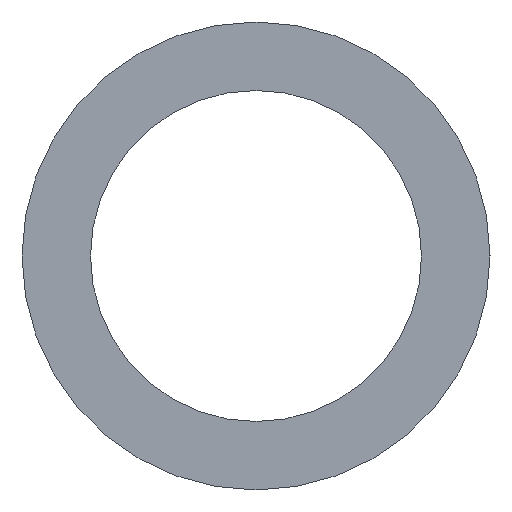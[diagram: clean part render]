
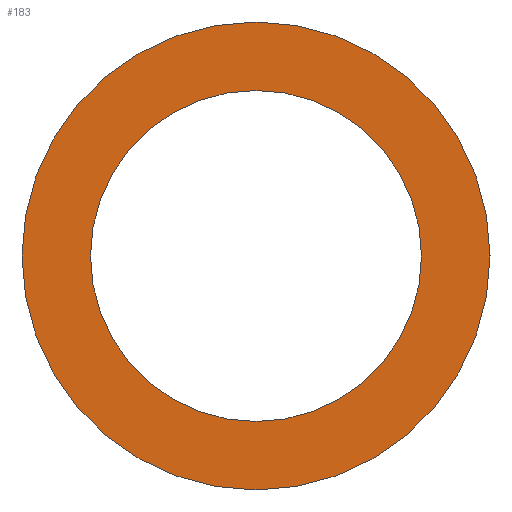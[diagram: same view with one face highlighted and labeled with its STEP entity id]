
A CAD part, left-side view. The second image highlights one B-rep face of the part: STEP entity #183.
In plain terms, the highlighted planar face has unit normal (-1, 0, 0).
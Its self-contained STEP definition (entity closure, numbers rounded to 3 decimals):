
#22 = VERTEX_POINT('',#23);
#23 = CARTESIAN_POINT('',(1.27,3.95,12.));
#32 = CYLINDRICAL_SURFACE('',#33,3.95);
#33 = AXIS2_PLACEMENT_3D('',#34,#35,#36);
#34 = CARTESIAN_POINT('',(1.27,0.,12.));
#35 = DIRECTION('',(-1.,-0.,-0.));
#36 = DIRECTION('',(0.,1.,0.));
#79 = EDGE_CURVE('',#22,#22,#80,.T.);
#80 = SURFACE_CURVE('',#81,(#86,#93),.PCURVE_S1.);
#81 = CIRCLE('',#82,3.95);
#82 = AXIS2_PLACEMENT_3D('',#83,#84,#85);
#83 = CARTESIAN_POINT('',(1.27,0.,12.));
#84 = DIRECTION('',(1.,0.,0.));
#85 = DIRECTION('',(0.,1.,0.));
#86 = PCURVE('',#32,#87);
#87 = DEFINITIONAL_REPRESENTATION('',(#88),#92);
#88 = LINE('',#89,#90);
#89 = CARTESIAN_POINT('',(-0.,0.));
#90 = VECTOR('',#91,1.);
#91 = DIRECTION('',(-1.,0.));
#92 = ( GEOMETRIC_REPRESENTATION_CONTEXT(2) 
PARAMETRIC_REPRESENTATION_CONTEXT() REPRESENTATION_CONTEXT('2D SPACE',''
  ) );
#93 = PCURVE('',#94,#99);
#94 = PLANE('',#95);
#95 = AXIS2_PLACEMENT_3D('',#96,#97,#98);
#96 = CARTESIAN_POINT('',(1.27,0.,12.));
#97 = DIRECTION('',(1.,0.,0.));
#98 = DIRECTION('',(-0.,0.,1.));
#99 = DEFINITIONAL_REPRESENTATION('',(#100),#104);
#100 = CIRCLE('',#101,3.95);
#101 = AXIS2_PLACEMENT_2D('',#102,#103);
#102 = CARTESIAN_POINT('',(0.,0.));
#103 = DIRECTION('',(0.,-1.));
#104 = ( GEOMETRIC_REPRESENTATION_CONTEXT(2) 
PARAMETRIC_REPRESENTATION_CONTEXT() REPRESENTATION_CONTEXT('2D SPACE',''
  ) );
#110 = VERTEX_POINT('',#111);
#111 = CARTESIAN_POINT('',(1.27,2.794,12.));
#120 = CYLINDRICAL_SURFACE('',#121,2.794);
#121 = AXIS2_PLACEMENT_3D('',#122,#123,#124);
#122 = CARTESIAN_POINT('',(1.27,0.,12.));
#123 = DIRECTION('',(-1.,-0.,-0.));
#124 = DIRECTION('',(0.,1.,0.));
#162 = EDGE_CURVE('',#110,#110,#163,.T.);
#163 = SURFACE_CURVE('',#164,(#169,#176),.PCURVE_S1.);
#164 = CIRCLE('',#165,2.794);
#165 = AXIS2_PLACEMENT_3D('',#166,#167,#168);
#166 = CARTESIAN_POINT('',(1.27,0.,12.));
#167 = DIRECTION('',(1.,0.,0.));
#168 = DIRECTION('',(0.,1.,0.));
#169 = PCURVE('',#120,#170);
#170 = DEFINITIONAL_REPRESENTATION('',(#171),#175);
#171 = LINE('',#172,#173);
#172 = CARTESIAN_POINT('',(-0.,0.));
#173 = VECTOR('',#174,1.);
#174 = DIRECTION('',(-1.,0.));
#175 = ( GEOMETRIC_REPRESENTATION_CONTEXT(2) 
PARAMETRIC_REPRESENTATION_CONTEXT() REPRESENTATION_CONTEXT('2D SPACE',''
  ) );
#176 = PCURVE('',#94,#177);
#177 = DEFINITIONAL_REPRESENTATION('',(#178),#182);
#178 = CIRCLE('',#179,2.794);
#179 = AXIS2_PLACEMENT_2D('',#180,#181);
#180 = CARTESIAN_POINT('',(0.,0.));
#181 = DIRECTION('',(0.,-1.));
#182 = ( GEOMETRIC_REPRESENTATION_CONTEXT(2) 
PARAMETRIC_REPRESENTATION_CONTEXT() REPRESENTATION_CONTEXT('2D SPACE',''
  ) );
#183 = ADVANCED_FACE('',(#184,#187),#94,.F.);
#184 = FACE_BOUND('',#185,.F.);
#185 = EDGE_LOOP('',(#186));
#186 = ORIENTED_EDGE('',*,*,#79,.T.);
#187 = FACE_BOUND('',#188,.F.);
#188 = EDGE_LOOP('',(#189));
#189 = ORIENTED_EDGE('',*,*,#162,.F.);
